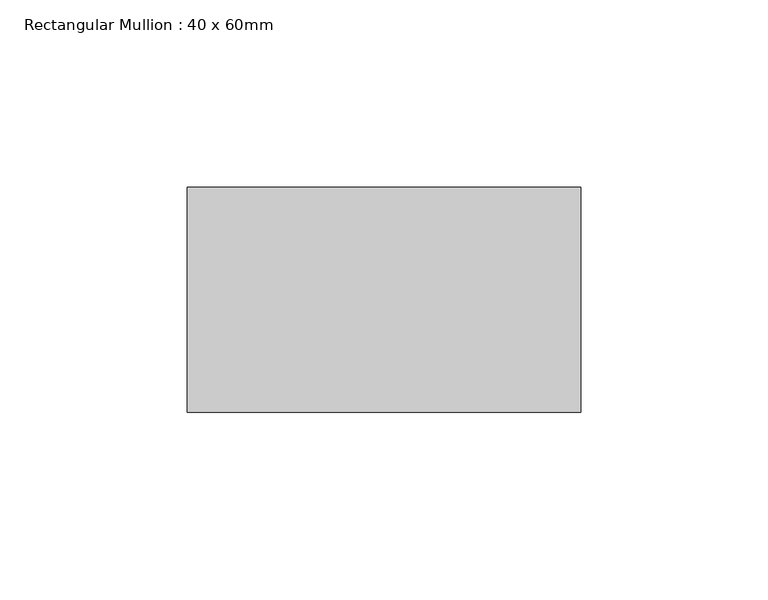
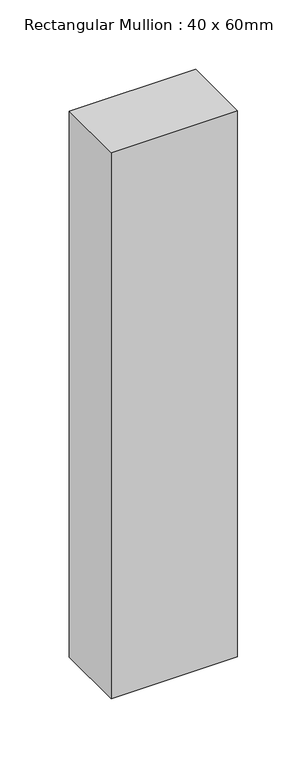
"""IFC4 building model written with IfcOpenShell, lengths in millimetres: member geometry, Rectangular Mullion : 40 x 60mm."""

from ifc_helpers import new_model, si_unit, frame, origin, place, context, project, spatial, polyline, outline, extrude, source, transform, mapped, element, save


def rectangular_mullion_40_x_60mm_1ef26a8d(model_context):
    return source(origin(), model_context, "Body", "SweptSolid", [
        extrude(outline(polyline([(80.0, -10.0), (80.0, -70.0), (-25.0, -70.0), (-25.0, -10.0), (80.0, -10.0)])), frame((0.0, 0.0, -480.0), z_axis=(0.0, 0.0, 1.0), x_axis=(1.0, 0.0, 0.0)), (0.0, 0.0, 1.0), 480.0),
    ])


if __name__ == "__main__":
    model = new_model("IFC4")
    model_context = context("Model", 3, world=origin())
    ifc_project = project(units=[si_unit("LENGTHUNIT", "METRE", prefix="MILLI")], contexts=[model_context])
    site = spatial("IfcSite", under=ifc_project)
    building = spatial("IfcBuilding", under=site)
    placement = place(None, origin())
    rectangular_mullion_40_x_60mm_shape = rectangular_mullion_40_x_60mm_1ef26a8d(model_context)
    element("IfcMember", 1, ObjectType="Rectangular Mullion : 40 x 60mm", at=placement, inside=building, context=model_context, shape_type="MappedRepresentation", body=[
        mapped(rectangular_mullion_40_x_60mm_shape, transform((0.0, 0.0, 0.0), x_axis=(1.0, 0.0, 0.0), y_axis=(0.0, 1.0, 0.0), z_axis=(0.0, 0.0, 1.0))),
    ])
    save(model, "model.ifc")
